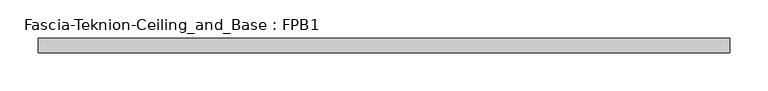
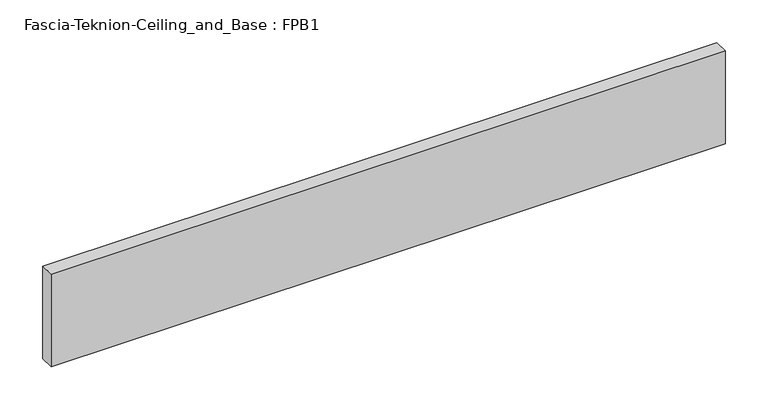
"""IFC4 building model written with IfcOpenShell, lengths in millimetres: proxy geometry, Fascia-Teknion-Ceiling_and_Base : FPB1."""

import ifcopenshell
import ifcopenshell.guid

model = None  # the IFC model being written
_history = None  # IfcOwnerHistory: only IFC2X3 demands one
_inside = {}  # id of a spatial element -> (the spatial element, [elements in it])
_under = {}  # id of a project, library or spatial element -> (it, [spatial elements below it])
_declared = {}  # id of a project -> (the project, [libraries it declares])
_typed = {}  # id of a type object -> (the type object, [elements of that type])
_made_of = {}  # id of a material, layer set ... -> (it, [elements and type objects made of it])


def new_model(schema):
    """Start an empty IFC model of exactly this schema.

    Asked for "IFC4X3", IfcOpenShell would pick the latest addendum, in which some entities
    have other attributes; the version numbers below select the first issue.
    IFC2X3 requires an IfcOwnerHistory on every rooted entity: one is made here for all.
    """
    global model, _history
    if schema == "IFC4X3":
        model = ifcopenshell.file(schema_version=(4, 3, 0, 0))
    else:
        model = ifcopenshell.file(schema=schema)
    _inside.clear()
    _under.clear()
    _declared.clear()
    _typed.clear()
    _made_of.clear()
    _history = None
    if model.schema == "IFC2X3":
        org = make("IfcOrganization", Name="unknown")
        user = make(
            "IfcPersonAndOrganization",
            ThePerson=make("IfcPerson", FamilyName="unknown"),
            TheOrganization=org,
        )
        app = make(
            "IfcApplication",
            ApplicationDeveloper=org,
            Version="unknown",
            ApplicationFullName="unknown",
            ApplicationIdentifier="unknown",
        )
        _history = make(
            "IfcOwnerHistory",
            OwningUser=user,
            OwningApplication=app,
            ChangeAction="ADDED",
            CreationDate=0,
        )
    return model


def make(cls, **values):
    """One entity of the class cls with the attributes given. An attribute that is None is left unset."""
    return model.create_entity(
        cls, **{name: value for name, value in values.items() if value is not None}
    )


def rooted(cls, **values):
    """An entity with a GlobalId (a new one), such as an element, a storey or a relation."""
    return make(cls, GlobalId=ifcopenshell.guid.new(), OwnerHistory=_history, **values)


def si_unit(unit_type, name, prefix=None):
    """IfcSIUnit, for example si_unit("LENGTHUNIT", "METRE", prefix="MILLI")."""
    return make("IfcSIUnit", UnitType=unit_type, Prefix=prefix, Name=name)


def assignment(units):
    """IfcUnitAssignment: the units of a project."""
    return None if units is None else make("IfcUnitAssignment", Units=units)


def point(xyz):
    """IfcCartesianPoint."""
    return None if xyz is None else make("IfcCartesianPoint", Coordinates=xyz)


def direction(xyz):
    """IfcDirection."""
    return None if xyz is None else make("IfcDirection", DirectionRatios=xyz)


def frame(location, z_axis=None, x_axis=None):
    """IfcAxis2Placement3D, a coordinate frame: its origin and axes. An axis left out is left unset."""
    return make(
        "IfcAxis2Placement3D",
        Location=point(location),
        Axis=direction(z_axis),
        RefDirection=direction(x_axis),
    )


def origin():
    """The frame at (0, 0, 0) with its axes left unset."""
    return frame((0.0, 0.0, 0.0))


def origin_with_axes():
    """The frame at (0, 0, 0) with the z axis (0, 0, 1) and the x axis (1, 0, 0) written out."""
    return frame((0.0, 0.0, 0.0), z_axis=(0.0, 0.0, 1.0), x_axis=(1.0, 0.0, 0.0))


def place(relative_to, where):
    """IfcLocalPlacement: puts the frame where relative to a parent placement (None: the world)."""
    return make(
        "IfcLocalPlacement", PlacementRelTo=relative_to, RelativePlacement=where
    )


def context(
    kind, dimensions, precision=None, world=None, true_north=None, identifier=None
):
    """IfcGeometricRepresentationContext, for example the 3D "Model" context."""
    return make(
        "IfcGeometricRepresentationContext",
        ContextIdentifier=identifier,
        ContextType=kind,
        CoordinateSpaceDimension=dimensions,
        Precision=precision,
        WorldCoordinateSystem=world,
        TrueNorth=true_north,
    )


def project(units=None, contexts=None):
    """IfcProject with its units and contexts."""
    return rooted(
        "IfcProject",
        Name="project",
        RepresentationContexts=contexts,
        UnitsInContext=assignment(units),
    )


def spatial(cls, under=None, at=None, **own):
    """A site, building, storey or space (cls), placed at a placement, below another one or the project."""
    s = rooted(cls, ObjectPlacement=at, **own)
    if under is not None:
        _under.setdefault(under.id(), (under, []))[1].append(s)
    return s


def polyline(points):
    """IfcPolyline through the points."""
    return make("IfcPolyline", Points=[point(p) for p in points])


def outline(outer, holes=None, kind="AREA"):
    """IfcArbitraryClosedProfileDef: a profile drawn as a closed curve; with holes, ...WithVoids."""
    if holes is None:
        return make("IfcArbitraryClosedProfileDef", ProfileType=kind, OuterCurve=outer)
    return make(
        "IfcArbitraryProfileDefWithVoids",
        ProfileType=kind,
        OuterCurve=outer,
        InnerCurves=holes,
    )


def extrude(swept, where, along, depth):
    """IfcExtrudedAreaSolid: the profile swept, set in the frame where, extruded along a direction by depth."""
    return make(
        "IfcExtrudedAreaSolid",
        SweptArea=swept,
        Position=where,
        ExtrudedDirection=direction(along),
        Depth=depth,
    )


def shape(context_of_items, identifier, shape_type, items):
    """IfcShapeRepresentation: the items that make up one representation, for example the "Body"."""
    return make(
        "IfcShapeRepresentation",
        ContextOfItems=context_of_items,
        RepresentationIdentifier=identifier,
        RepresentationType=shape_type,
        Items=items,
    )


def source(mapping_origin, context_of_items, identifier, shape_type, items):
    """IfcRepresentationMap: a shape defined once, which mapped items show again and again."""
    return make(
        "IfcRepresentationMap",
        MappingOrigin=mapping_origin,
        MappedRepresentation=shape(context_of_items, identifier, shape_type, items),
    )


def transform(
    local_origin,
    x_axis=None,
    y_axis=None,
    z_axis=None,
    scale=None,
    scale2=None,
    scale3=None,
    uniform=True,
):
    """IfcCartesianTransformationOperator3D, or its non-uniform kind. x_axis, y_axis, z_axis: its Axis1, 2, 3."""
    if uniform:
        return make(
            "IfcCartesianTransformationOperator3D",
            Axis1=direction(x_axis),
            Axis2=direction(y_axis),
            LocalOrigin=point(local_origin),
            Scale=scale,
            Axis3=direction(z_axis),
        )
    return make(
        "IfcCartesianTransformationOperator3DnonUniform",
        Axis1=direction(x_axis),
        Axis2=direction(y_axis),
        LocalOrigin=point(local_origin),
        Scale=scale,
        Axis3=direction(z_axis),
        Scale2=scale2,
        Scale3=scale3,
    )


def mapped(mapping_source, mapping_target):
    """IfcMappedItem: shows the shape of a source again, moved by a transform."""
    return make(
        "IfcMappedItem", MappingSource=mapping_source, MappingTarget=mapping_target
    )


def made_of(thing, what):
    """Note that an element or type object is made of a material, layer set ...; save() writes the relation."""
    if what is not None:
        _made_of.setdefault(what.id(), (what, []))[1].append(thing)
    return thing


def element(
    cls,
    number,
    at=None,
    inside=None,
    cuts=None,
    type_object=None,
    material=None,
    context=None,
    identifier="Body",
    shape_type=None,
    held_by="IfcProductDefinitionShape",
    body=None,
    shapes=None,
    **own,
):
    """One element of the class cls, such as IfcWall. Its Tag is "e" and its number.

    at: its placement. inside: the storey or other place that contains it. cuts: it is an
    opening in that element (IfcRelVoidsElement). A single representation is given by context,
    identifier, shape_type and body (its items); several are given by shapes. held_by: the class
    of the entity that holds the representations. save() writes the other relations.
    """
    e = rooted(cls, Tag="e%d" % number, ObjectPlacement=at, **own)
    if body is not None:
        shapes = [shape(context, identifier, shape_type, body)]
    if shapes is not None:
        e.Representation = make(held_by, Representations=shapes)
    if inside is not None:
        _inside.setdefault(inside.id(), (inside, []))[1].append(e)
    if cuts is not None:
        rooted(
            "IfcRelVoidsElement", RelatingBuildingElement=cuts, RelatedOpeningElement=e
        )
    if type_object is not None:
        _typed.setdefault(type_object.id(), (type_object, []))[1].append(e)
    return made_of(e, material)


def aggregate(whole, parts):
    """IfcRelAggregates: a whole, such as a stair, and the parts it consists of."""
    return rooted("IfcRelAggregates", RelatingObject=whole, RelatedObjects=parts)


def save(model, path):
    """Write the relations noted so far, then the file.

    IfcRelAggregates (storeys below a building ...), IfcRelContainedInSpatialStructure (elements
    in a storey), IfcRelDefinesByType, IfcRelAssociatesMaterial and IfcRelDeclares: one each for
    every whole, place, type object, material and project.
    """
    for whole, parts in _under.values():
        aggregate(whole, parts)
    for where, things in _inside.values():
        rooted(
            "IfcRelContainedInSpatialStructure",
            RelatedElements=things,
            RelatingStructure=where,
        )
    for kind, things in _typed.values():
        rooted("IfcRelDefinesByType", RelatedObjects=things, RelatingType=kind)
    for what, things in _made_of.values():
        rooted("IfcRelAssociatesMaterial", RelatedObjects=things, RelatingMaterial=what)
    for by, libraries in _declared.values():
        rooted("IfcRelDeclares", RelatingContext=by, RelatedDefinitions=libraries)
    model.write(path)


def fascia_teknion_ceiling_and_base_fpb1_658eb9e8(model_context):
    return source(origin(), model_context, "Body", "SweptSolid", [
        extrude(outline(polyline([(454.025, 0.0), (454.025, -19.05), (-454.025, -19.05), (-454.025, 0.0), (454.025, 0.0)])), origin_with_axes(), (0.0, 0.0, 1.0), 132.08),
    ])


if __name__ == "__main__":
    model = new_model("IFC4")
    model_context = context("Model", 3, world=origin())
    ifc_project = project(units=[si_unit("LENGTHUNIT", "METRE", prefix="MILLI")], contexts=[model_context])
    site = spatial("IfcSite", under=ifc_project)
    building = spatial("IfcBuilding", under=site)
    placement = place(None, origin())
    fascia_teknion_ceiling_and_base_fpb1_shape = fascia_teknion_ceiling_and_base_fpb1_658eb9e8(model_context)
    element("IfcBuildingElementProxy", 1, Name="Fascia-Teknion-Ceiling_and_Base : FPB1", ObjectType="Fascia-Teknion-Ceiling_and_Base : FPB1", at=placement, inside=building, context=model_context, shape_type="MappedRepresentation", body=[
        mapped(fascia_teknion_ceiling_and_base_fpb1_shape, transform((0.0, 0.0, 0.0), x_axis=(1.0, 0.0, 0.0), y_axis=(0.0, 1.0, 0.0), z_axis=(0.0, 0.0, 1.0))),
    ])
    save(model, "model.ifc")
